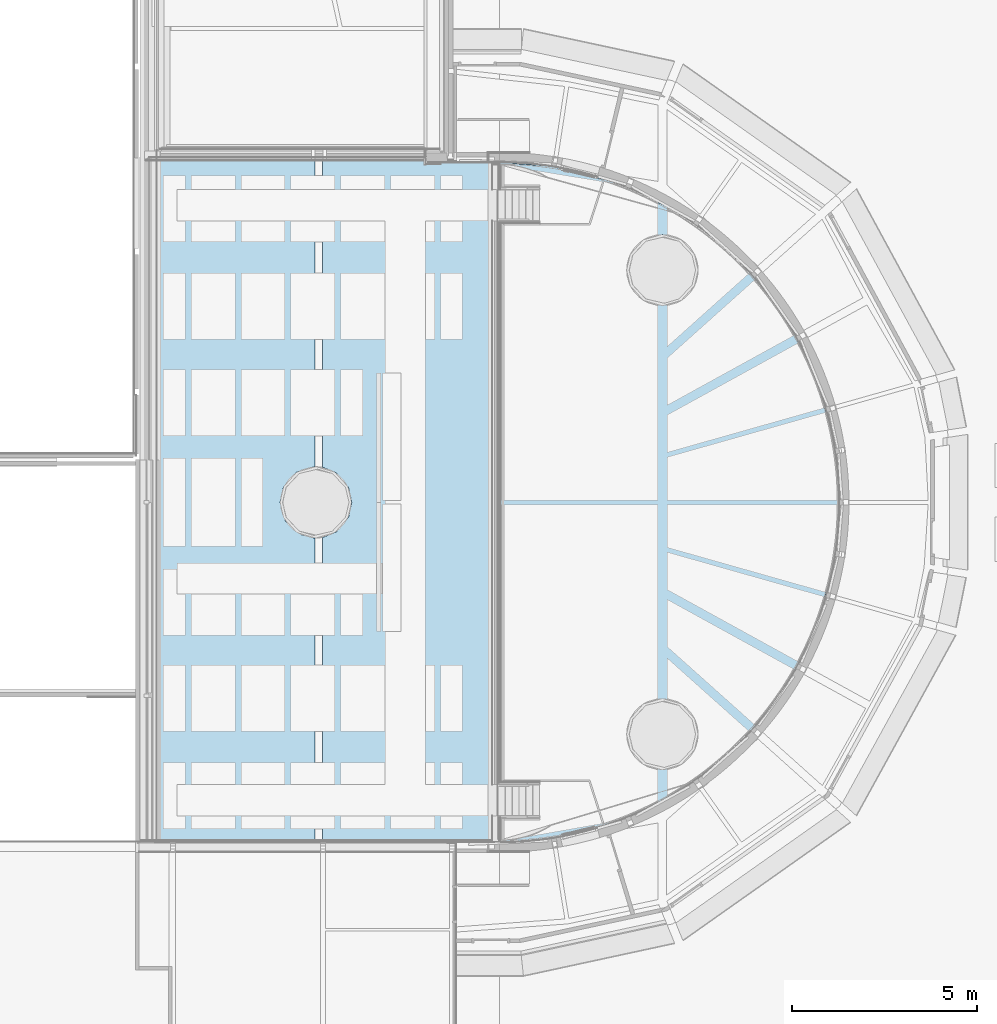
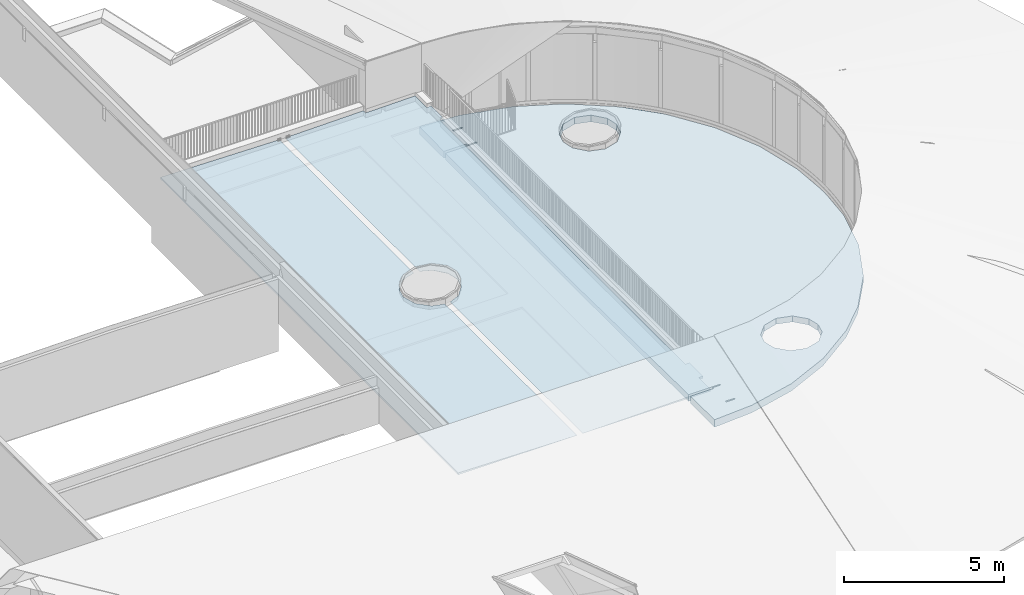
# One storey, part 45 of 66: 2 slabs.
"""IFC2X3 building model written with IfcOpenShell, lengths in millimetres."""

import ifcopenshell
import ifcopenshell.guid

model = None  # the IFC model being written
_history = None  # IfcOwnerHistory: only IFC2X3 demands one
_inside = {}  # id of a spatial element -> (the spatial element, [elements in it])
_under = {}  # id of a project, library or spatial element -> (it, [spatial elements below it])
_declared = {}  # id of a project -> (the project, [libraries it declares])
_typed = {}  # id of a type object -> (the type object, [elements of that type])
_made_of = {}  # id of a material, layer set ... -> (it, [elements and type objects made of it])


def new_model(schema):
    """Start an empty IFC model of exactly this schema.

    Asked for "IFC4X3", IfcOpenShell would pick the latest addendum, in which some entities
    have other attributes; the version numbers below select the first issue.
    IFC2X3 requires an IfcOwnerHistory on every rooted entity: one is made here for all.
    """
    global model, _history
    if schema == "IFC4X3":
        model = ifcopenshell.file(schema_version=(4, 3, 0, 0))
    else:
        model = ifcopenshell.file(schema=schema)
    _inside.clear()
    _under.clear()
    _declared.clear()
    _typed.clear()
    _made_of.clear()
    _history = None
    if model.schema == "IFC2X3":
        org = make("IfcOrganization", Name="unknown")
        user = make(
            "IfcPersonAndOrganization",
            ThePerson=make("IfcPerson", FamilyName="unknown"),
            TheOrganization=org,
        )
        app = make(
            "IfcApplication",
            ApplicationDeveloper=org,
            Version="unknown",
            ApplicationFullName="unknown",
            ApplicationIdentifier="unknown",
        )
        _history = make(
            "IfcOwnerHistory",
            OwningUser=user,
            OwningApplication=app,
            ChangeAction="ADDED",
            CreationDate=0,
        )
    return model


def make(cls, **values):
    """One entity of the class cls with the attributes given. An attribute that is None is left unset."""
    return model.create_entity(
        cls, **{name: value for name, value in values.items() if value is not None}
    )


def entity(cls, *values):
    """Any entity or typed value of the class cls, its attributes in the order of the schema. None: left unset."""
    e = model.create_entity(cls)
    for i, value in enumerate(values):
        if value is not None:
            e[i] = value
    return e


def rooted(cls, **values):
    """An entity with a GlobalId (a new one), such as an element, a storey or a relation."""
    return make(cls, GlobalId=ifcopenshell.guid.new(), OwnerHistory=_history, **values)


def si_unit(unit_type, name, prefix=None):
    """IfcSIUnit, for example si_unit("LENGTHUNIT", "METRE", prefix="MILLI")."""
    return make("IfcSIUnit", UnitType=unit_type, Prefix=prefix, Name=name)


def converted_unit(unit_type, name, factor, base, dimensions=None, offset=None):
    """IfcConversionBasedUnit, such as the inch: factor (a typed value) times the base unit."""
    return make(
        "IfcConversionBasedUnit"
        if offset is None
        else "IfcConversionBasedUnitWithOffset",
        ConversionOffset=offset,
        Dimensions=None
        if dimensions is None
        else entity("IfcDimensionalExponents", *dimensions),
        UnitType=unit_type,
        Name=name,
        ConversionFactor=make(
            "IfcMeasureWithUnit", ValueComponent=factor, UnitComponent=base
        ),
    )


def derived_unit(unit_type, elements):
    """IfcDerivedUnit: a product of units, each with its exponent."""
    return make(
        "IfcDerivedUnit",
        Elements=[
            make("IfcDerivedUnitElement", Unit=unit, Exponent=power)
            for unit, power in elements
        ],
        UnitType=unit_type,
    )


def assignment(units):
    """IfcUnitAssignment: the units of a project."""
    return None if units is None else make("IfcUnitAssignment", Units=units)


def point(xyz):
    """IfcCartesianPoint."""
    return None if xyz is None else make("IfcCartesianPoint", Coordinates=xyz)


def direction(xyz):
    """IfcDirection."""
    return None if xyz is None else make("IfcDirection", DirectionRatios=xyz)


def frame(location, z_axis=None, x_axis=None):
    """IfcAxis2Placement3D, a coordinate frame: its origin and axes. An axis left out is left unset."""
    return make(
        "IfcAxis2Placement3D",
        Location=point(location),
        Axis=direction(z_axis),
        RefDirection=direction(x_axis),
    )


def origin():
    """The frame at (0, 0, 0) with its axes left unset."""
    return frame((0.0, 0.0, 0.0))


def place(relative_to, where):
    """IfcLocalPlacement: puts the frame where relative to a parent placement (None: the world)."""
    return make(
        "IfcLocalPlacement", PlacementRelTo=relative_to, RelativePlacement=where
    )


def context(
    kind, dimensions, precision=None, world=None, true_north=None, identifier=None
):
    """IfcGeometricRepresentationContext, for example the 3D "Model" context."""
    return make(
        "IfcGeometricRepresentationContext",
        ContextIdentifier=identifier,
        ContextType=kind,
        CoordinateSpaceDimension=dimensions,
        Precision=precision,
        WorldCoordinateSystem=world,
        TrueNorth=true_north,
    )


def subcontext(parent, identifier, kind, view, scale=None):
    """IfcGeometricRepresentationSubContext, for example "Body" below "Model"."""
    return make(
        "IfcGeometricRepresentationSubContext",
        ContextIdentifier=identifier,
        ContextType=kind,
        ParentContext=parent,
        TargetScale=scale,
        TargetView=view,
    )


def project(units=None, contexts=None):
    """IfcProject with its units and contexts."""
    return rooted(
        "IfcProject",
        Name="project",
        RepresentationContexts=contexts,
        UnitsInContext=assignment(units),
    )


def spatial(cls, under=None, at=None, **own):
    """A site, building, storey or space (cls), placed at a placement, below another one or the project."""
    s = rooted(cls, ObjectPlacement=at, **own)
    if under is not None:
        _under.setdefault(under.id(), (under, []))[1].append(s)
    return s


def faces_of(points, faces, orient=None, outer=None):
    """IfcFace entities. A face is a list of loops; a loop is a list of indices into points, from 0.

    orient and outer hold one flag for each loop. By default every Orientation is true, the
    first loop of a face is its IfcFaceOuterBound and the others are IfcFaceBound.
    """
    made = []
    for i, loops in enumerate(faces):
        bounds = []
        for j, loop in enumerate(loops):
            is_outer = j == 0 if outer is None else outer[i][j]
            bounds.append(
                make(
                    "IfcFaceOuterBound" if is_outer else "IfcFaceBound",
                    Bound=make("IfcPolyLoop", Polygon=[points[k] for k in loop]),
                    Orientation=True if orient is None else orient[i][j],
                )
            )
        made.append(make("IfcFace", Bounds=bounds))
    return made


def faceted_brep(points, faces, orient=None, outer=None, voids=None):
    """IfcFacetedBrep: a solid bounded by flat faces; with voids (closed shells), ...WithVoids."""
    shared = [point(p) for p in points]
    hull = make("IfcClosedShell", CfsFaces=faces_of(shared, faces, orient, outer))
    if voids is None:
        return make("IfcFacetedBrep", Outer=hull)
    return make(
        "IfcFacetedBrepWithVoids",
        Outer=hull,
        Voids=[
            make(cls, CfsFaces=faces_of(shared, fs, o, b)) for cls, fs, o, b in voids
        ],
    )


def shape(context_of_items, identifier, shape_type, items):
    """IfcShapeRepresentation: the items that make up one representation, for example the "Body"."""
    return make(
        "IfcShapeRepresentation",
        ContextOfItems=context_of_items,
        RepresentationIdentifier=identifier,
        RepresentationType=shape_type,
        Items=items,
    )


def material(Name=None, Category=None):
    """IfcMaterial."""
    return make("IfcMaterial", Name=Name, Category=Category)


def made_of(thing, what):
    """Note that an element or type object is made of a material, layer set ...; save() writes the relation."""
    if what is not None:
        _made_of.setdefault(what.id(), (what, []))[1].append(thing)
    return thing


def type_object(cls, material=None, **own):
    """A type object (cls), such as IfcWallType, which elements share."""
    return made_of(rooted(cls, **own), material)


def element(
    cls,
    number,
    at=None,
    inside=None,
    cuts=None,
    type_object=None,
    material=None,
    context=None,
    identifier="Body",
    shape_type=None,
    held_by="IfcProductDefinitionShape",
    body=None,
    shapes=None,
    **own,
):
    """One element of the class cls, such as IfcWall. Its Tag is "e" and its number.

    at: its placement. inside: the storey or other place that contains it. cuts: it is an
    opening in that element (IfcRelVoidsElement). A single representation is given by context,
    identifier, shape_type and body (its items); several are given by shapes. held_by: the class
    of the entity that holds the representations. save() writes the other relations.
    """
    e = rooted(cls, Tag="e%d" % number, ObjectPlacement=at, **own)
    if body is not None:
        shapes = [shape(context, identifier, shape_type, body)]
    if shapes is not None:
        e.Representation = make(held_by, Representations=shapes)
    if inside is not None:
        _inside.setdefault(inside.id(), (inside, []))[1].append(e)
    if cuts is not None:
        rooted(
            "IfcRelVoidsElement", RelatingBuildingElement=cuts, RelatedOpeningElement=e
        )
    if type_object is not None:
        _typed.setdefault(type_object.id(), (type_object, []))[1].append(e)
    return made_of(e, material)


def aggregate(whole, parts):
    """IfcRelAggregates: a whole, such as a stair, and the parts it consists of."""
    return rooted("IfcRelAggregates", RelatingObject=whole, RelatedObjects=parts)


def save(model, path):
    """Write the relations noted so far, then the file.

    IfcRelAggregates (storeys below a building ...), IfcRelContainedInSpatialStructure (elements
    in a storey), IfcRelDefinesByType, IfcRelAssociatesMaterial and IfcRelDeclares: one each for
    every whole, place, type object, material and project.
    """
    for whole, parts in _under.values():
        aggregate(whole, parts)
    for where, things in _inside.values():
        rooted(
            "IfcRelContainedInSpatialStructure",
            RelatedElements=things,
            RelatingStructure=where,
        )
    for kind, things in _typed.values():
        rooted("IfcRelDefinesByType", RelatedObjects=things, RelatingType=kind)
    for what, things in _made_of.values():
        rooted("IfcRelAssociatesMaterial", RelatedObjects=things, RelatingMaterial=what)
    for by, libraries in _declared.values():
        rooted("IfcRelDeclares", RelatingContext=by, RelatedDefinitions=libraries)
    model.write(path)


model = new_model("IFC2X3")

# Units and contexts
model_context = context("Model", 3, precision=0.01, world=origin(), true_north=direction((6.12303176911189e-17, 1.0)))
body_context = subcontext(model_context, "Body", "Model", "MODEL_VIEW")
ifc_project = project(units=[si_unit("LENGTHUNIT", "METRE", prefix="MILLI"), si_unit("AREAUNIT", "SQUARE_METRE"), si_unit("VOLUMEUNIT", "CUBIC_METRE"), converted_unit("PLANEANGLEUNIT", "DEGREE", entity("IfcRatioMeasure", 0.0174532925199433), si_unit("PLANEANGLEUNIT", "RADIAN"), dimensions=[0, 0, 0, 0, 0, 0, 0]), si_unit("MASSUNIT", "GRAM", prefix="KILO"), derived_unit("MASSDENSITYUNIT", [(si_unit("MASSUNIT", "GRAM", prefix="KILO"), 1), (si_unit("LENGTHUNIT", "METRE"), -3)]), derived_unit("MOMENTOFINERTIAUNIT", [(si_unit("LENGTHUNIT", "METRE"), 4)]), si_unit("TIMEUNIT", "SECOND"), si_unit("FREQUENCYUNIT", "HERTZ"), si_unit("THERMODYNAMICTEMPERATUREUNIT", "DEGREE_CELSIUS"), derived_unit("THERMALTRANSMITTANCEUNIT", [(si_unit("MASSUNIT", "GRAM", prefix="KILO"), 1), (si_unit("THERMODYNAMICTEMPERATUREUNIT", "KELVIN"), -1), (si_unit("TIMEUNIT", "SECOND"), -3)]), derived_unit("VOLUMETRICFLOWRATEUNIT", [(si_unit("LENGTHUNIT", "METRE"), 3), (si_unit("TIMEUNIT", "SECOND"), -1)]), si_unit("ELECTRICCURRENTUNIT", "AMPERE"), si_unit("ELECTRICVOLTAGEUNIT", "VOLT"), si_unit("POWERUNIT", "WATT"), si_unit("FORCEUNIT", "NEWTON", prefix="KILO"), si_unit("ILLUMINANCEUNIT", "LUX"), si_unit("LUMINOUSFLUXUNIT", "LUMEN"), si_unit("LUMINOUSINTENSITYUNIT", "CANDELA"), derived_unit("USERDEFINED", [(si_unit("MASSUNIT", "GRAM", prefix="KILO"), -1), (si_unit("LENGTHUNIT", "METRE"), -2), (si_unit("TIMEUNIT", "SECOND"), 3), (si_unit("LUMINOUSFLUXUNIT", "LUMEN"), 1)]), derived_unit("LINEARVELOCITYUNIT", [(si_unit("LENGTHUNIT", "METRE"), 1), (si_unit("TIMEUNIT", "SECOND"), -1)]), si_unit("PRESSUREUNIT", "PASCAL"), derived_unit("USERDEFINED", [(si_unit("LENGTHUNIT", "METRE"), -2), (si_unit("MASSUNIT", "GRAM", prefix="KILO"), 1), (si_unit("TIMEUNIT", "SECOND"), -2)]), derived_unit("LINEARFORCEUNIT", [(si_unit("MASSUNIT", "GRAM", prefix="KILO"), 1), (si_unit("LENGTHUNIT", "METRE"), 1), (si_unit("TIMEUNIT", "SECOND"), -2), (si_unit("LENGTHUNIT", "METRE"), -1)]), derived_unit("PLANARFORCEUNIT", [(si_unit("MASSUNIT", "GRAM", prefix="KILO"), 1), (si_unit("LENGTHUNIT", "METRE"), 1), (si_unit("TIMEUNIT", "SECOND"), -2), (si_unit("LENGTHUNIT", "METRE"), -2)])], contexts=[model_context])

# Site, building, storey
site_placement = place(None, origin())
site = spatial("IfcSite", under=ifc_project, at=site_placement, Name="Default", CompositionType="ELEMENT")
building_placement = place(site_placement, origin())
building = spatial("IfcBuilding", under=site, at=building_placement, Name="-", CompositionType="ELEMENT")
storey_placement = place(building_placement, frame((0.0, 0.0, 3070.0)))
storey = spatial("IfcBuildingStorey", under=building, at=storey_placement, Name="01 eerste verdieping", CompositionType="ELEMENT", Elevation=3070.00000000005)

# Slabs
slab_type_1 = type_object("IfcSlabType", Name="Floor:NLRS_23_FL_Pir dakisolatie afschot", PredefinedType="FLOOR")
slab_1_placement = place(storey_placement, origin())
element("IfcSlab", 1, at=slab_1_placement, inside=storey, type_object=slab_type_1, Name="Floor:NLRS_23_FL_Pir dakisolatie afschot", ObjectType="Floor:NLRS_23_FL_Pir dakisolatie afschot", PredefinedType="FLOOR", context=body_context, shape_type="Brep", body=[
    faceted_brep([(50599.1203901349, 27287.9965964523, 100.0), (50599.1203901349, 28817.4953625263, 100.0), (50646.5626620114, 28817.4953625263, 100.0), (51401.6203901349, 28080.9965964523, 100.0), (51401.6203901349, 27287.9965964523, 100.0), (51401.6203901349, 28130.9965964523, 100.0), (51324.2562086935, 28767.3089308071, 100.0), (52001.9497553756, 28717.1224990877, 100.0), (51731.6203901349, 28130.9965964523, 100.0), (51731.6203901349, 28080.9965964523, 100.0), (52826.5686827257, 28515.1151923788, 100.0), (53651.1876100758, 28313.1078856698, 100.0), (51731.6203901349, 27230.9965964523, 100.0), (51731.6203901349, 27180.9965964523, 100.0), (54191.525416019, 26317.0775325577, 100.0), (54368.6150758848, 26515.2409534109, 100.0), (54545.7047357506, 26713.404374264, 100.0), (54424.6470879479, 27963.0168069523, 100.0), (55198.1065658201, 27612.9257282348, 100.0), (54801.080132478, 26786.9767586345, 100.0), (55056.4555292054, 26860.5491430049, 100.0), (55311.8309259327, 26786.9767586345, 100.0), (55567.2063226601, 26713.404374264, 100.0), (55894.0673593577, 27126.6728093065, 100.0), (56590.0281528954, 26640.4198903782, 100.0), (55744.2959825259, 26515.2409534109, 100.0), (55921.3856423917, 26317.0775325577, 100.0), (55968.9205857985, 26108.8133377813, 100.0), (56016.4555292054, 25900.5491430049, 100.0), (57074.9614180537, 26164.3663750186, 100.0), (57559.894683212, 25688.312859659, 100.0), (55968.9205857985, 25692.2849482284, 100.0), (55921.3856423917, 25484.020753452, 100.0), (55744.2959825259, 25285.8573325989, 100.0), (55567.2063226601, 25087.6939117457, 100.0), (57809.4099256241, 25344.8845911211, 100.0), (58058.9251680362, 25001.4563225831, 100.0), (58557.9556528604, 24314.5997855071, 100.0), (58740.1176453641, 23931.1707303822, 100.0), (58922.2796378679, 23547.7416752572, 100.0), (59286.6036228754, 22780.8835650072, 100.0), (55311.8309259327, 25014.1215273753, 100.0), (55056.4555292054, 24940.5491430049, 100.0), (59503.8144917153, 21960.138314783, 100.0), (59721.0253605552, 21139.3930645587, 100.0), (59783.7262576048, 20292.7101694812, 100.0), (59846.4271546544, 19446.0272744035, 100.0), (55056.4313823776, 14301.6505008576, 100.0), (59815.0767061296, 19107.7020541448, 100.0), (59783.7262576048, 18769.3768338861, 100.0), (59721.0253605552, 18092.7263933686, 100.0), (59503.8144917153, 17271.9811431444, 100.0), (59286.6036228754, 16451.2358929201, 100.0), (55311.806779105, 14228.0781164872, 100.0), (55567.1821758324, 14154.5057321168, 100.0), (59104.4416303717, 16067.8068377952, 100.0), (58922.2796378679, 15684.3777826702, 100.0), (58557.9556528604, 14917.5196724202, 100.0), (58308.4404104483, 14574.0914038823, 100.0), (58058.9251680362, 14230.6631353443, 100.0), (57559.894683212, 13543.8065982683, 100.0), (55744.2718356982, 13956.3423112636, 100.0), (55921.361495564, 13758.1788904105, 100.0), (55968.8964389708, 13549.914695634, 100.0), (56016.4313823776, 13341.6505008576, 100.0), (57074.9614180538, 13067.7530829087, 100.0), (56590.0281528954, 12591.6995675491, 100.0), (55956.7508053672, 13080.172808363, 100.0), (55921.361495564, 12925.1221113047, 100.0), (55744.2718356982, 12726.9586904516, 100.0), (55567.1821758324, 12528.7952695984, 100.0), (55894.0673593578, 12105.4466486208, 100.0), (55198.1065658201, 11619.1937296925, 100.0), (55311.806779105, 12455.222885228, 100.0), (55056.4313823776, 12381.6505008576, 100.0), (54801.0559856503, 12455.222885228, 100.0), (54545.6805889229, 12528.7952695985, 100.0), (54424.647087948, 11269.102650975, 100.0), (53651.1876100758, 10919.0115722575, 100.0), (54368.5909290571, 12726.9586904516, 100.0), (54191.5012691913, 12925.1221113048, 100.0), (51731.6203901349, 12030.9965964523, 100.0), (51731.6203901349, 11980.9965964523, 100.0), (51731.6203901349, 11130.9965964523, 100.0), (52826.5686827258, 10717.0042655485, 100.0), (52001.9497553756, 10514.9969588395, 100.0), (51731.6203901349, 11080.9965964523, 100.0), (51401.6203901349, 11080.9965964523, 100.0), (51480.8623802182, 10476.4079592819, 100.0), (50646.5626620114, 10414.6240954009, 100.0), (51401.6203901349, 11130.9965964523, 100.0), (50599.1203901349, 11923.9965964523, 100.0), (50599.1203901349, 10414.6240954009, 100.0), (51438.2860548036, 11923.9965964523, 100.0), (51438.2860548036, 11980.9965964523, 100.0), (54143.9663257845, 13133.3863060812, 100.0), (54096.4313823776, 13341.6505008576, 100.0), (54143.9663257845, 13549.914695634, 100.0), (54191.5012691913, 13758.1788904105, 100.0), (50599.1203901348, 12030.9965964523, 100.0), (54368.5909290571, 13956.3423112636, 100.0), (54545.6805889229, 14154.5057321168, 100.0), (50599.1203901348, 27180.9965964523, 100.0), (54191.525416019, 25484.020753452, 100.0), (54545.7047357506, 25087.6939117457, 100.0), (54368.6150758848, 25285.8573325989, 100.0), (54801.080132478, 25014.1215273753, 100.0), (54801.0559856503, 14228.0781164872, 100.0), (54156.1361062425, 26162.0268356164, 100.0), (54096.4555292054, 25900.5491430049, 100.0), (54143.9904726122, 25692.2849482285, 100.0), (51401.6203901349, 27230.9965964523, 100.0), (50599.1203901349, 10414.6240954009, 385.614136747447), (50599.1203901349, 11923.9965964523, 361.464176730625), (50599.1203901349, 27287.9965964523, 361.15982326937), (50599.1203901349, 28817.4953625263, 385.631803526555), (50599.1203901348, 12030.9965964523, 359.752176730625), (50599.1203901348, 19515.507642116, 240.0), (50599.1203901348, 19715.5076421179, 240.0), (50599.1203901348, 27180.9965964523, 359.447823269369), (54143.9663257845, 13133.3863060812, 342.113941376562), (54191.5012691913, 12925.1221113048, 345.446168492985), (54096.4313823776, 13341.6505008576, 338.78171426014), (55968.8964389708, 13133.3863060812, 342.113941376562), (56016.4313823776, 13341.6505008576, 338.78171426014), (55921.361495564, 12925.1221113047, 345.446168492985), (54368.5909290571, 12726.9586904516, 348.616783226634), (54545.6805889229, 12528.7952695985, 351.787397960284), (55567.1821758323, 12528.7952695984, 351.787397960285), (55744.2718356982, 12726.9586904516, 348.616783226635), (54801.0559856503, 12455.222885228, 352.964556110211), (55056.4313823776, 12381.6505008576, 354.141714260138), (55311.806779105, 12455.222885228, 352.964556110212), (55956.7630153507, 13603.074697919, 334.598927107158), (55921.361495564, 13758.1788904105, 332.117260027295), (55056.4313823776, 14301.6505008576, 323.421714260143), (55567.1821758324, 14154.5057321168, 325.776030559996), (55311.806779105, 14228.0781164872, 324.598872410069), (55744.2718356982, 13956.3423112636, 328.946645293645), (54801.0559856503, 14228.0781164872, 324.598872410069), (54545.6805889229, 14154.5057321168, 325.776030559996), (54191.5012691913, 13758.1788904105, 332.117260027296), (54156.0997493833, 13603.0746978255, 334.598927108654), (54368.5909290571, 13956.3423112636, 328.946645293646), (54096.4555292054, 25900.5491430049, 338.960664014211), (54143.9904726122, 25692.2849482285, 335.628436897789), (54191.525416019, 25484.020753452, 332.296209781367), (55956.7871439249, 25639.1248659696, 334.777875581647), (56016.4555292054, 25900.5491430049, 338.960664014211), (55921.3856423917, 25484.020753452, 332.296209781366), (54368.6150758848, 25285.8573325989, 329.125595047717), (54545.7047357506, 25087.6939117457, 325.954980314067), (55744.2959825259, 25285.8573325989, 329.125595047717), (55567.2063226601, 25087.6939117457, 325.954980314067), (54801.080132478, 25014.1215273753, 324.77782216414), (55056.4555292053, 24940.5491430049, 323.600664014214), (55311.8309259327, 25014.1215273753, 324.77782216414), (55968.9205857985, 26108.8133377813, 342.292891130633), (55921.3856423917, 26317.0775325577, 345.625118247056), (55744.2959825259, 26515.2409534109, 348.795732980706), (55567.2063226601, 26713.404374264, 351.966347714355), (55056.4555292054, 26860.5491430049, 354.320664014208), (54801.080132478, 26786.9767586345, 353.143505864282), (54545.7047357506, 26713.404374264, 351.966347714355), (55311.8309259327, 26786.9767586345, 353.143505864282), (54368.6150758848, 26515.2409534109, 348.795732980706), (54191.525416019, 26317.0775325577, 345.625118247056), (54143.9904726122, 26108.8133377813, 342.292891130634), (51731.6203901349, 27180.9965964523, 359.44782326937), (51401.6203901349, 27287.9965964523, 361.159823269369), (51401.6203901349, 28130.9965964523, 374.64782326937), (51401.6203901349, 28080.9965964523, 373.84782326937), (51401.6203901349, 11130.9965964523, 374.152176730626), (51401.6203901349, 11080.9965964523, 374.952176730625), (51731.6203901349, 28080.9965964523, 373.84782326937), (51731.6203901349, 28130.9965964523, 374.64782326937), (51731.6203901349, 11080.9965964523, 374.952176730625), (51731.6203901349, 11130.9965964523, 374.152176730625), (51731.6203901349, 11980.9965964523, 360.552176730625), (51731.6203901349, 12030.9965964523, 359.752176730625), (51731.6203901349, 27230.9965964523, 360.24782326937), (51438.2860548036, 11923.9965964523, 361.464176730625), (50646.5626620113, 28817.4953625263, 385.631803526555), (51327.5808958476, 28766.8125560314, 384.820878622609), (58083.613949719, 24966.6448130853, 324.018194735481), (58581.8831526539, 24274.0750176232, 312.937078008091), (53665.4812615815, 28308.156611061, 377.482383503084), (59305.2302517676, 16502.557956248, 288.207194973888), (58943.3703576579, 15729.9837737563, 300.568381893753), (58943.7034711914, 23501.4100337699, 300.574438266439), (59305.5237897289, 22728.7450499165, 288.211798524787), (52008.599129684, 28716.1297495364, 384.00995371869), (55218.5419850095, 27601.2599636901, 366.172037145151), (57585.3447467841, 25659.2146085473, 335.099311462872), (59847.4488691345, 19515.507642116, 240.0), (59789.3353617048, 18835.1358430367, 250.885948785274), (59624.916296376, 21489.4630210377, 268.38328606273), (59731.3804652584, 21076.3690114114, 261.77378190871), (59518.2260530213, 17328.6610001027, 274.989546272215), (56614.3711312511, 26619.7501699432, 350.467880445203), (59847.4608698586, 19715.507642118, 240.0), (52837.0401956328, 28512.1431802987, 380.746168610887), (54442.0116232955, 27954.7082873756, 371.827210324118), (55916.4565581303, 27110.5050668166, 358.319958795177), (58083.2290248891, 14264.9292245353, 324.009254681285), (57584.9475862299, 13572.448857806, 335.088940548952), (58581.5104635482, 14957.4095912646, 312.929568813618), (57099.8579390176, 26139.4823892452, 342.783595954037), (59518.4521274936, 21902.5570306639, 274.992790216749), (55916.1067266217, 12121.3609612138, 358.306346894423), (55218.2225540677, 11630.6766104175, 366.157296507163), (59789.4206675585, 20395.9383267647, 250.886890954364), (59847.9982790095, 19615.5076095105, 240.0), (59411.7281523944, 16915.6094781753, 281.598370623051), (59731.221854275, 18154.7640439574, 261.771897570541), (52836.8764292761, 10719.9296788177, 380.729247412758), (52008.4951225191, 10515.9741419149, 383.992536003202), (53665.2577360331, 10923.8852157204, 377.465958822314), (54441.7401450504, 11277.280913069, 371.811627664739), (57099.4692427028, 13092.2470849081, 342.772168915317), (56613.9908991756, 12612.0453120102, 350.455397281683), (50646.5626620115, 10414.6240954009, 385.614136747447), (51327.5288922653, 10465.2991186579, 384.803336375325), (51438.2860548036, 11980.9965964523, 360.552176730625), (51401.6203901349, 27230.9965964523, 360.24782326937)], [[[0, 1, 2]], [[0, 2, 3]], [[0, 3, 4]], [[5, 3, 2]], [[5, 2, 6]], [[5, 6, 7]], [[8, 5, 7]], [[9, 8, 7]], [[9, 7, 10]], [[9, 10, 11]], [[9, 11, 12]], [[12, 11, 13]], [[13, 11, 14]], [[11, 15, 14]], [[11, 16, 15]], [[16, 11, 17]], [[16, 17, 18]], [[18, 19, 16]], [[18, 20, 19]], [[18, 21, 20]], [[18, 22, 21]], [[22, 18, 23]], [[22, 23, 24]], [[24, 25, 22]], [[24, 26, 25]], [[24, 27, 26]], [[24, 28, 27]], [[28, 24, 29]], [[28, 29, 30]], [[30, 31, 28]], [[30, 32, 31]], [[30, 33, 32]], [[30, 34, 33]], [[34, 30, 35]], [[34, 35, 36]], [[34, 36, 37]], [[34, 37, 38]], [[34, 38, 39]], [[34, 39, 40]], [[40, 41, 34]], [[40, 42, 41]], [[42, 40, 43]], [[42, 43, 44]], [[42, 44, 45]], [[42, 45, 46]], [[47, 42, 46]], [[47, 46, 48]], [[47, 48, 49]], [[47, 49, 50]], [[47, 50, 51]], [[47, 51, 52]], [[52, 53, 47]], [[52, 54, 53]], [[54, 52, 55]], [[54, 55, 56]], [[54, 56, 57]], [[54, 57, 58]], [[54, 58, 59]], [[54, 59, 60]], [[60, 61, 54]], [[60, 62, 61]], [[60, 63, 62]], [[60, 64, 63]], [[64, 60, 65]], [[64, 65, 66]], [[66, 67, 64]], [[66, 68, 67]], [[66, 69, 68]], [[66, 70, 69]], [[70, 66, 71]], [[70, 71, 72]], [[72, 73, 70]], [[72, 74, 73]], [[72, 75, 74]], [[72, 76, 75]], [[76, 72, 77]], [[76, 77, 78]], [[78, 79, 76]], [[78, 80, 79]], [[78, 81, 80]], [[78, 82, 81]], [[83, 82, 78]], [[83, 78, 84]], [[83, 84, 85]], [[86, 83, 85]], [[86, 85, 87]], [[87, 85, 88]], [[87, 88, 89]], [[90, 87, 89]], [[91, 90, 89]], [[92, 91, 89]], [[91, 93, 90]], [[93, 94, 82]], [[90, 93, 83]], [[82, 83, 93]], [[81, 95, 80]], [[81, 96, 95]], [[81, 97, 96]], [[81, 98, 97]], [[99, 98, 81]], [[99, 100, 98]], [[99, 101, 100]], [[102, 101, 99]], [[13, 103, 102]], [[104, 101, 102]], [[102, 103, 105]], [[102, 105, 104]], [[47, 104, 106]], [[104, 47, 107]], [[104, 107, 101]], [[47, 106, 42]], [[13, 14, 108]], [[13, 108, 109]], [[13, 109, 110]], [[13, 110, 103]], [[12, 111, 4]], [[9, 12, 4]], [[9, 4, 3]], [[91, 92, 112, 113]], [[1, 0, 114, 115]], [[102, 99, 116, 117, 118, 119]], [[120, 121, 80, 95, 96, 122]], [[123, 124, 64, 67, 68, 125]], [[79, 80, 121, 126, 127, 76]], [[69, 70, 128, 129, 125, 68]], [[130, 131, 74, 75, 76, 127]], [[128, 70, 73, 74, 131, 132]], [[63, 64, 124, 133, 134, 62]], [[135, 47, 53, 54, 136, 137]], [[61, 62, 134, 138, 136, 54]], [[139, 140, 101, 107, 47, 135]], [[97, 98, 141, 142, 122, 96]], [[143, 141, 98, 100, 101, 140]], [[144, 145, 146, 103, 110, 109]], [[147, 148, 28, 31, 32, 149]], [[104, 105, 103, 146, 150, 151]], [[152, 149, 32, 33, 34, 153]], [[106, 104, 151, 154, 155, 42]], [[155, 156, 153, 34, 41, 42]], [[27, 28, 148, 157, 158, 26]], [[25, 26, 158, 159, 160, 22]], [[19, 20, 161, 162, 163, 16]], [[164, 161, 20, 21, 22, 160]], [[163, 165, 166, 14, 15, 16]], [[167, 144, 109, 108, 14, 166]], [[13, 102, 119, 168]], [[0, 4, 169, 114]], [[3, 5, 170, 171]], [[87, 90, 172, 173]], [[9, 3, 171, 174]], [[8, 9, 174, 175]], [[83, 86, 176, 177]], [[81, 82, 178, 179]], [[12, 13, 168, 180]], [[5, 8, 175, 170]], [[93, 91, 113, 181]], [[99, 81, 179, 116]], [[86, 87, 173, 176]], [[90, 83, 177, 172]], [[2, 1, 115, 182]], [[2, 183, 7, 6]], [[184, 185, 37]], [[186, 17, 11]], [[187, 188, 55]], [[189, 190, 40]], [[191, 10, 7]], [[188, 56, 55]], [[192, 23, 18]], [[193, 35, 30]], [[194, 195, 48]], [[190, 43, 40]], [[43, 196, 44]], [[44, 196, 197]], [[185, 38, 37]], [[50, 198, 51]], [[199, 29, 24]], [[195, 49, 48]], [[200, 46, 45]], [[184, 35, 193]], [[201, 11, 10]], [[202, 18, 17]], [[203, 24, 23]], [[204, 59, 58]], [[205, 59, 204]], [[206, 204, 58]], [[184, 37, 36, 35]], [[207, 30, 29]], [[189, 40, 39, 38]], [[43, 190, 208, 196]], [[66, 209, 71]], [[210, 72, 71]], [[211, 44, 197]], [[203, 199, 24]], [[45, 211, 200]], [[23, 192, 203]], [[200, 212, 46]], [[183, 2, 182]], [[57, 56, 206]], [[51, 198, 213]], [[187, 52, 213]], [[44, 211, 45]], [[50, 49, 214]], [[59, 205, 60]], [[52, 51, 213]], [[84, 215, 216]], [[217, 77, 218]], [[189, 38, 185]], [[71, 209, 210]], [[219, 220, 65]], [[206, 56, 188]], [[214, 49, 195]], [[221, 89, 222]], [[202, 192, 18]], [[46, 194, 48]], [[198, 50, 214]], [[187, 55, 52]], [[10, 191, 201]], [[72, 218, 77]], [[58, 57, 206]], [[217, 78, 77]], [[216, 85, 84]], [[205, 219, 60]], [[66, 220, 209]], [[218, 72, 210]], [[207, 193, 30]], [[29, 199, 207]], [[215, 78, 217]], [[78, 215, 84]], [[85, 216, 88]], [[201, 186, 11]], [[220, 66, 65]], [[194, 46, 212]], [[60, 219, 65]], [[17, 186, 202]], [[183, 191, 7]], [[89, 88, 222]], [[88, 216, 222]], [[92, 89, 221, 112]], [[94, 93, 181, 223]], [[82, 94, 223, 178]], [[111, 12, 180, 224]], [[4, 111, 224, 169]], [[182, 115, 114]], [[171, 182, 114]], [[182, 171, 170]], [[170, 183, 182]], [[171, 114, 169]], [[169, 174, 171]], [[180, 174, 169]], [[169, 224, 180]], [[174, 180, 186]], [[186, 180, 168]], [[168, 166, 186]], [[168, 167, 166]], [[168, 144, 167]], [[168, 145, 144]], [[168, 146, 145]], [[146, 168, 119]], [[118, 146, 119]], [[118, 150, 146]], [[118, 151, 150]], [[118, 154, 151]], [[118, 155, 154]], [[155, 118, 197]], [[118, 211, 197]], [[118, 200, 211]], [[155, 197, 196]], [[155, 196, 208]], [[155, 208, 190]], [[190, 156, 155]], [[190, 153, 156]], [[153, 190, 189]], [[153, 189, 185]], [[153, 185, 184]], [[153, 184, 193]], [[193, 152, 153]], [[193, 149, 152]], [[193, 147, 149]], [[193, 148, 147]], [[148, 193, 207]], [[148, 207, 199]], [[199, 157, 148]], [[199, 158, 157]], [[199, 159, 158]], [[199, 160, 159]], [[160, 199, 203]], [[160, 203, 192]], [[192, 164, 160]], [[192, 161, 164]], [[192, 162, 161]], [[192, 163, 162]], [[163, 192, 202]], [[163, 202, 186]], [[174, 186, 201]], [[186, 166, 165]], [[186, 165, 163]], [[174, 201, 191]], [[170, 191, 183]], [[191, 175, 174]], [[170, 175, 191]], [[212, 200, 118, 117, 194]], [[178, 223, 181]], [[177, 178, 181]], [[177, 217, 178]], [[179, 178, 217]], [[172, 177, 181]], [[181, 113, 172]], [[113, 221, 172]], [[113, 112, 221]], [[173, 172, 221]], [[173, 221, 222]], [[173, 222, 216]], [[176, 216, 177]], [[177, 216, 215]], [[176, 173, 216]], [[177, 215, 217]], [[217, 121, 179]], [[217, 126, 121]], [[217, 127, 126]], [[127, 217, 218]], [[127, 218, 210]], [[210, 130, 127]], [[210, 131, 130]], [[210, 132, 131]], [[210, 128, 132]], [[128, 210, 209]], [[128, 209, 220]], [[220, 129, 128]], [[220, 125, 129]], [[220, 123, 125]], [[220, 124, 123]], [[124, 220, 219]], [[124, 219, 205]], [[205, 133, 124]], [[205, 134, 133]], [[205, 138, 134]], [[205, 136, 138]], [[136, 205, 204]], [[136, 204, 206]], [[136, 206, 188]], [[136, 188, 187]], [[187, 137, 136]], [[187, 135, 137]], [[135, 187, 213]], [[135, 213, 198]], [[135, 198, 214]], [[214, 117, 135]], [[117, 214, 195]], [[117, 195, 194]], [[117, 139, 135]], [[117, 140, 139]], [[117, 143, 140]], [[117, 141, 143]], [[117, 116, 141]], [[141, 116, 179]], [[179, 121, 120]], [[179, 120, 122]], [[179, 122, 142]], [[179, 142, 141]]]),
])
ifc_material = material(Name="NLRS_n7_isolatie PIR_gen")
slab_type_2 = type_object("IfcSlabType", Name="Floor:NLRS_23_FL_Pir dakisolatie 200mm", PredefinedType="FLOOR")
slab_2_placement = place(storey_placement, origin())
element("IfcSlab", 2, at=slab_2_placement, inside=storey, type_object=slab_type_2, material=ifc_material, Name="Floor:NLRS_23_FL_Pir dakisolatie 200mm", ObjectType="Floor:NLRS_23_FL_Pir dakisolatie 200mm", PredefinedType="FLOOR", context=body_context, shape_type="Brep", body=[
    faceted_brep([(46084.8316285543, 18758.0735261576, 1533.75382768), (46231.7809092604, 18818.7333390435, 1536.1050161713), (46231.773928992, 18818.7285028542, 1530.0), (46099.5989550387, 18764.1681154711, 1530.0), (45850.2173985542, 18661.2261293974, 1530.0), (46605.4385562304, 19414.3835121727, 1530.0), (46561.5187117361, 19212.7072953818, 1530.0), (46592.1481926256, 19353.3474024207, 1541.87089270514), (46396.6523266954, 19015.7258204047, 1538.74295885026), (46561.5237441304, 19212.7183017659, 1541.38090152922), (46649.3584007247, 19616.0597289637, 1542.78625603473), (46649.3584007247, 19616.0597289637, 1530.0), (46314.2166179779, 18917.2295797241, 1537.42398751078), (46396.646320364, 19015.717899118, 1530.0), (45850.2173985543, 28956.7067824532, 1530.0), (48666.5626620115, 28956.7067824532, 1575.06152421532), (48666.5626620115, 28956.7067824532, 1530.0), (50450.120390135, 28080.9965964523, 1530.0), (50599.1203901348, 28080.9965964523, 1530.0), (50599.1203901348, 27230.9965964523, 1530.0), (50450.1203901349, 27230.9965964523, 1530.0), (50450.1203901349, 11980.9965964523, 1530.0), (50599.1203901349, 11980.9965964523, 1530.0), (50599.1203901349, 11130.9965964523, 1530.0), (50450.1203901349, 11130.9965964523, 1530.0), (50450.1203901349, 10402.124095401, 1530.0), (45850.2173985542, 10402.124095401, 1530.0), (46605.4385562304, 19817.7359457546, 1530.0), (46561.5187117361, 20019.4121625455, 1530.0), (46396.6463203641, 20216.4015588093, 1530.0), (46314.210124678, 20314.8962569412, 1530.0), (46231.773928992, 20413.3909550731, 1530.0), (46099.5989550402, 20467.9513424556, 1530.0), (45850.2173985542, 20570.89332853, 1530.0), (48666.5626620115, 28817.4953625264, 1530.0), (50450.120390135, 28817.4953625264, 1530.0), (50450.1203901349, 27230.9965964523, 1603.5984478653), (50450.1203901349, 11980.9965964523, 1603.5984478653), (50450.120390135, 28817.4953625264, 1603.5984478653), (50450.120390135, 28080.9965964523, 1603.5984478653), (50450.1203901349, 11130.9965964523, 1603.5984478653), (50450.1203901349, 10402.124095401, 1603.5984478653), (46605.4410724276, 19817.7304425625, 1542.08357878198), (46561.5237441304, 20019.4011561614, 1541.38090152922), (46084.8316285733, 20474.0459317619, 1533.7538276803), (46231.7809092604, 20413.3861188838, 1536.1050161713), (46396.6523266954, 20216.3936375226, 1538.74295885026), (50599.1203901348, 28080.9965964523, 1605.9824478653), (50599.1203901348, 27230.9965964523, 1605.9824478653), (50599.1203901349, 11980.9965964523, 1605.9824478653), (50599.1203901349, 11130.9965964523, 1605.9824478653), (48666.5626620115, 28817.4953625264, 1575.06152421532)], [[[0, 1, 2, 3, 4]], [[5, 6, 7]], [[6, 8, 9]], [[10, 11, 5]], [[12, 8, 13]], [[12, 13, 2]], [[9, 7, 6]], [[13, 8, 6]], [[1, 12, 2]], [[5, 7, 10]], [[14, 15, 16]], [[17, 18, 19, 20, 21, 22, 23, 24, 25, 26, 4, 3, 2, 13, 6, 5, 11, 27, 28, 29, 30, 31, 32, 33, 14, 16, 34, 35]], [[21, 20, 36, 37]], [[17, 35, 38, 39]], [[25, 24, 40, 41]], [[25, 41, 26]], [[42, 43, 27]], [[43, 28, 27]], [[10, 42, 11]], [[44, 33, 32, 31, 45]], [[31, 30, 45]], [[45, 30, 46]], [[43, 46, 28]], [[30, 29, 28, 46]], [[27, 11, 42]], [[19, 18, 47, 48]], [[23, 22, 49, 50]], [[20, 19, 48, 36]], [[22, 21, 37, 49]], [[18, 17, 39, 47]], [[24, 23, 50, 40]], [[36, 48, 47, 39, 38, 51, 15, 14, 33, 44, 45, 46, 43, 42, 10, 7, 9, 8, 12, 1, 0, 4, 26, 41, 40, 50, 49, 37]], [[35, 34, 51, 38]], [[34, 16, 15, 51]]]),
    faceted_brep([(45405.9448207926, 20508.6707174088, 1533.9083612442), (45276.7324339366, 20467.9660015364, 1535.97575943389), (45147.5200470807, 20427.2612856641, 1538.04315762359), (45265.3914060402, 20493.2890760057, 1530.0), (45387.704881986, 20522.6362323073, 1530.0), (45650.2173985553, 20585.6218992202, 1530.0), (44801.8377872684, 20029.4089432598, 1543.57407378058), (44755.0533787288, 19910.2709223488, 1530.0), (44852.2690541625, 20082.6118877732, 1530.0), (44974.6789171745, 20228.3351144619, 1540.80861570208), (45107.4380678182, 20374.1209646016, 1530.0), (44949.4847295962, 20254.9528531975, 1530.0), (44755.5980939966, 19822.7343361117, 1544.31390887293), (44709.3584007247, 19616.0597289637, 1530.0), (44709.3584007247, 19616.0597289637, 1545.05374396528), (41367.6645167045, 10402.124095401, 1530.0), (45650.2173985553, 10402.124095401, 1530.0), (41367.6645167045, 10402.124095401, 1598.52084610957), (45650.2173985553, 28956.7067824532, 1530.0), (44749.7255718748, 19422.3417702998, 1530.0), (44790.0927430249, 19228.6238116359, 1530.0), (44904.4657523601, 19067.1608986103, 1530.0), (45018.8387616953, 18905.6979855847, 1530.0), (45188.1783959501, 18803.35323616, 1530.0), (45357.518030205, 18701.0084867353, 1530.0), (45517.1076573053, 18671.2872791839, 1530.0), (45650.2173985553, 18646.4975587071, 1530.0), (41367.6645167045, 28956.7067824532, 1530.0), (41367.6645167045, 28956.7067824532, 1598.52084610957), (44780.9518829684, 19362.4457485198, 1543.90824824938), (45046.1892069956, 18930.0924598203, 1539.66445106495), (45239.8330487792, 18751.3531515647, 1536.56614959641), (44852.5453652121, 19108.8317680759, 1542.76275253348), (45401.4097002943, 18710.0693755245, 1533.98092317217), (45525.8135494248, 18678.2834671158, 1531.99046158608)], [[[0, 1, 2, 3, 4, 5]], [[6, 7, 8]], [[2, 9, 10]], [[11, 10, 9]], [[7, 6, 12]], [[10, 3, 2]], [[11, 9, 8]], [[7, 12, 13]], [[6, 8, 9]], [[14, 13, 12]], [[15, 16, 17]], [[18, 5, 4, 3, 10, 11, 8, 7, 13, 19, 20, 21, 22, 23, 24, 25, 26, 16, 15, 27]], [[27, 28, 18]], [[29, 19, 14]], [[13, 14, 19]], [[22, 30, 23]], [[22, 21, 30]], [[31, 23, 30]], [[31, 24, 23]], [[29, 32, 20]], [[25, 24, 31, 33, 34, 26]], [[30, 21, 32]], [[21, 20, 32]], [[29, 20, 19]], [[27, 15, 17, 28]], [[18, 28, 17, 16, 26, 34, 33, 31, 30, 32, 29, 14, 12, 6, 9, 2, 1, 0, 5]]]),
])

save(model, "model.ifc")
